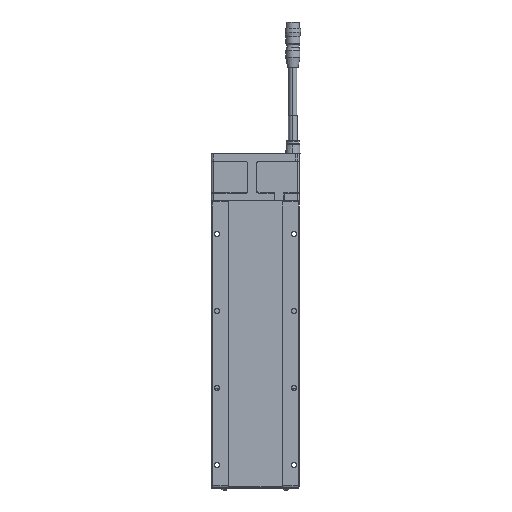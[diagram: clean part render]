
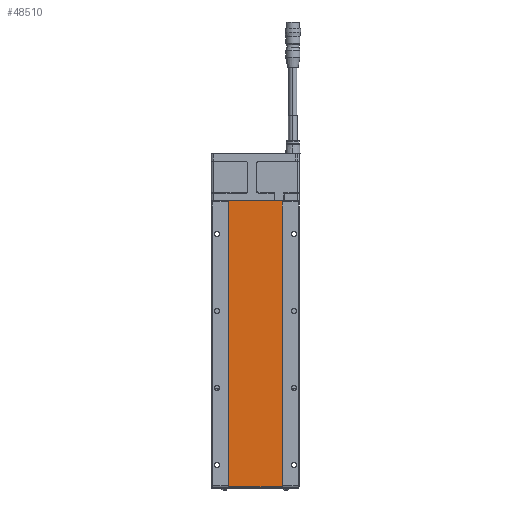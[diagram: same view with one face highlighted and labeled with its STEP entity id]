
A CAD part, front view. The second image highlights one B-rep face of the part: STEP entity #48510.
In plain terms, the highlighted planar face has unit normal (0, -1, 0).
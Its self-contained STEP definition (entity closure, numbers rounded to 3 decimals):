
#268 = VECTOR ( 'NONE', #56378, 1000. ) ;
#6121 = CARTESIAN_POINT ( 'NONE',  ( -24.3, 0.5, 259.9 ) ) ;
#7562 = VERTEX_POINT ( 'NONE', #26542 ) ;
#10890 = EDGE_CURVE ( 'NONE', #7562, #27431, #46268, .T. ) ;
#13987 = EDGE_LOOP ( 'NONE', ( #23968, #39586, #54190, #61821 ) ) ;
#14987 = LINE ( 'NONE', #86238, #65875 ) ;
#20722 = DIRECTION ( 'NONE',  ( 0., 0., -1. ) ) ;
#22631 = DIRECTION ( 'NONE',  ( 0., 1., 0. ) ) ;
#22858 = CARTESIAN_POINT ( 'NONE',  ( -24.3, 0.5, 0.3 ) ) ;
#23968 = ORIENTED_EDGE ( 'NONE', *, *, #62650, .T. ) ;
#26542 = CARTESIAN_POINT ( 'NONE',  ( -24.3, 0.5, 0.3 ) ) ;
#27431 = VERTEX_POINT ( 'NONE', #38618 ) ;
#34633 = CARTESIAN_POINT ( 'NONE',  ( -24.3, 0.5, 0.3 ) ) ;
#38613 = FACE_OUTER_BOUND ( 'NONE', #13987, .T. ) ;
#38618 = CARTESIAN_POINT ( 'NONE',  ( 24.3, 0.5, 0.3 ) ) ;
#39586 = ORIENTED_EDGE ( 'NONE', *, *, #10890, .T. ) ;
#39666 = PLANE ( 'NONE',  #92808 ) ;
#42024 = VERTEX_POINT ( 'NONE', #45689 ) ;
#44510 = LINE ( 'NONE', #76949, #47735 ) ;
#45689 = CARTESIAN_POINT ( 'NONE',  ( 24.3, 0.5, 259.9 ) ) ;
#45765 = EDGE_CURVE ( 'NONE', #42024, #58827, #44510, .T. ) ;
#46268 = LINE ( 'NONE', #22858, #268 ) ;
#47637 = DIRECTION ( 'NONE',  ( -1., 0., 0. ) ) ;
#47735 = VECTOR ( 'NONE', #61536, 1000. ) ;
#48510 = ADVANCED_FACE ( 'NONE', ( #38613 ), #39666, .F. ) ;
#54190 = ORIENTED_EDGE ( 'NONE', *, *, #57831, .T. ) ;
#54743 = VECTOR ( 'NONE', #20722, 1000. ) ;
#56378 = DIRECTION ( 'NONE',  ( 1., 0., 0. ) ) ;
#57831 = EDGE_CURVE ( 'NONE', #27431, #42024, #14987, .T. ) ;
#58827 = VERTEX_POINT ( 'NONE', #60815 ) ;
#60815 = CARTESIAN_POINT ( 'NONE',  ( -24.3, 0.5, 259.9 ) ) ;
#61178 = LINE ( 'NONE', #34633, #54743 ) ;
#61536 = DIRECTION ( 'NONE',  ( -1., 0., 0. ) ) ;
#61821 = ORIENTED_EDGE ( 'NONE', *, *, #45765, .T. ) ;
#62650 = EDGE_CURVE ( 'NONE', #58827, #7562, #61178, .T. ) ;
#65875 = VECTOR ( 'NONE', #80407, 1000. ) ;
#76949 = CARTESIAN_POINT ( 'NONE',  ( -24.3, 0.5, 259.9 ) ) ;
#80407 = DIRECTION ( 'NONE',  ( 0., 0., 1. ) ) ;
#86238 = CARTESIAN_POINT ( 'NONE',  ( 24.3, 0.5, 0.3 ) ) ;
#92808 = AXIS2_PLACEMENT_3D ( 'NONE', #6121, #22631, #47637 ) ;
